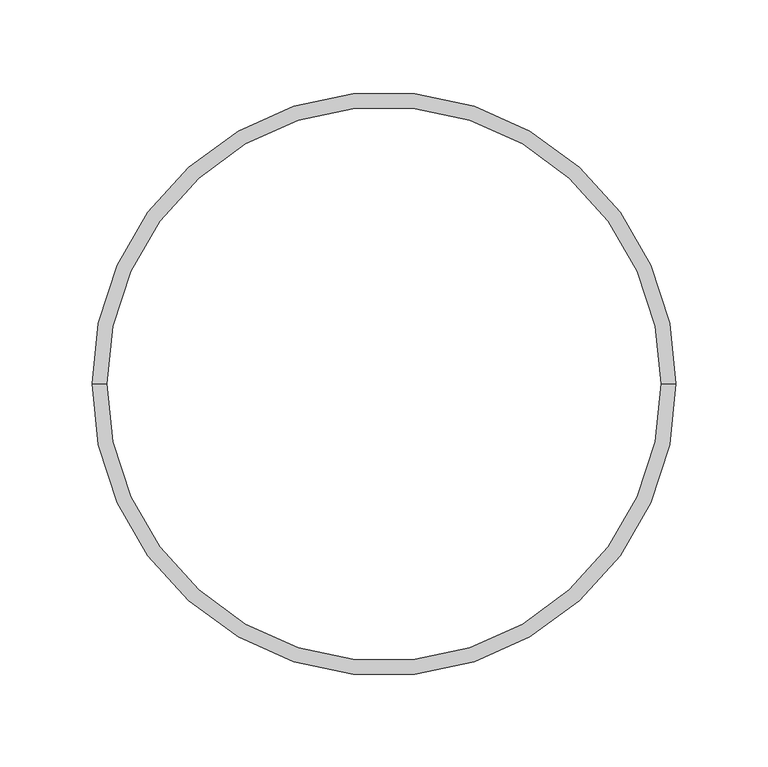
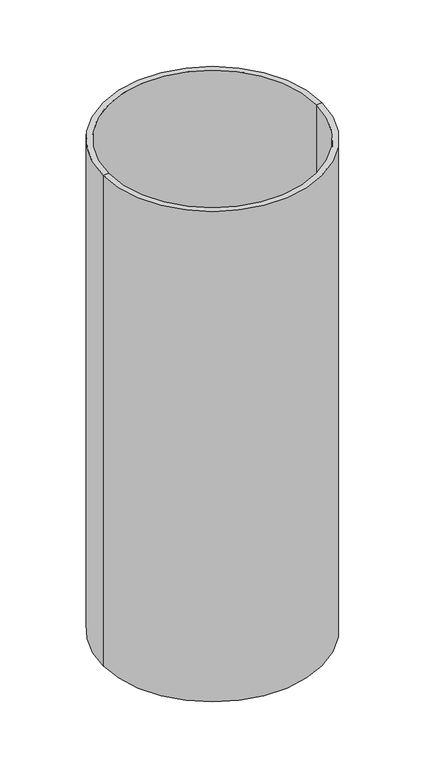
"""IFC4 building model written with IfcOpenShell, lengths in millimetres: pipe fitting geometry, Z_PIF_UN_Q-Bic_Plus_Telescopic_Pipe_PVC_Wavin_(nested) : DN315 L=750mm RAL8012."""

from ifc_helpers import new_model, si_unit, frame, origin, origin_with_axes, place, context, project, spatial, polyline, circle_curve, source, transform, mapped, element, save
from ifc_brep_helpers import plane_surface, cylinder_surface, revolved_surface, advanced_brep


def pipe_fitting_846650ca(model_context):
    return source(origin(), model_context, "Body", "AdvancedBrep", [
        advanced_brep(
        [(-150.5, 0.0, 0.0), (150.5, 0.0, 0.0), (158.5, 0.0, 0.0), (-158.5, 0.0, 0.0), (-150.5, 0.0, -750.0), (150.5, 0.0, -750.0), (-158.5, 0.0, -750.0), (158.5, 0.0, -750.0)],
        [
            (0, 1, circle_curve(frame((0.0, 0.0, 0.0), z_axis=(0.0, 0.0, -1.0), x_axis=(1.0, 0.0, 0.0)), 150.5)),
            (1, 2),
            (2, 3, circle_curve(origin_with_axes(), 158.5)),
            (3, 0),
            (1, 0, circle_curve(frame((0.0, 0.0, 0.0), z_axis=(0.0, 0.0, -1.0), x_axis=(1.0, 0.0, 0.0)), 150.5)),
            (3, 2, circle_curve(origin_with_axes(), 158.5)),
            (4, 5, circle_curve(frame((0.0, 0.0, -750.0), z_axis=(0.0, 0.0, -1.0), x_axis=(1.0, 0.0, 0.0)), 150.5)),
            (5, 1),
            (0, 4),
            (5, 4, circle_curve(frame((0.0, 0.0, -750.0), z_axis=(0.0, 0.0, -1.0), x_axis=(1.0, 0.0, 0.0)), 150.5)),
            (6, 7, circle_curve(frame((0.0, 0.0, -750.0), z_axis=(0.0, 0.0, -1.0), x_axis=(1.0, 0.0, 0.0)), 158.5)),
            (7, 5),
            (4, 6),
            (7, 6, circle_curve(frame((0.0, 0.0, -750.0), z_axis=(0.0, 0.0, -1.0), x_axis=(1.0, 0.0, 0.0)), 158.5)),
            (2, 7),
            (6, 3),
        ],
        [
            plane_surface(origin_with_axes()),
            revolved_surface(polyline([(150.5, 0.0, 0.0), (150.5, 0.0, -750.0)]), (0.0, 0.0, 0.0), (0.0, 0.0, 1.0)),
            plane_surface(frame((0.0, 0.0, -750.0), z_axis=(0.0, 0.0, -1.0), x_axis=(1.0, 0.0, 0.0))),
            cylinder_surface(origin_with_axes(), 158.5),
        ],
        [
            (0, [[1, 2, 3, 4]]),
            (0, [[5, -4, 6, -2]]),
            (1, [[7, 8, -1, 9]]),
            (1, [[10, -9, -5, -8]]),
            (2, [[11, 12, -7, 13]]),
            (2, [[14, -13, -10, -12]]),
            (3, [[-3, 15, -11, 16]]),
            (3, [[-6, -16, -14, -15]]),
        ],
    ),
    ])


if __name__ == "__main__":
    model = new_model("IFC4")
    model_context = context("Model", 3, world=origin())
    ifc_project = project(units=[si_unit("LENGTHUNIT", "METRE", prefix="MILLI")], contexts=[model_context])
    site = spatial("IfcSite", under=ifc_project)
    building = spatial("IfcBuilding", under=site)
    placement = place(None, origin())
    pipe_fitting_shape = pipe_fitting_846650ca(model_context)
    element("IfcPipeFitting", 1, ObjectType="Z_PIF_UN_Q-Bic_Plus_Telescopic_Pipe_PVC_Wavin_(nested) : DN315 L=750mm RAL8012", at=placement, inside=building, context=model_context, shape_type="MappedRepresentation", body=[
        mapped(pipe_fitting_shape, transform((0.0, 0.0, 0.0), x_axis=(1.0, 0.0, 0.0), y_axis=(0.0, 1.0, 0.0), z_axis=(0.0, 0.0, 1.0))),
    ])
    save(model, "model.ifc")
